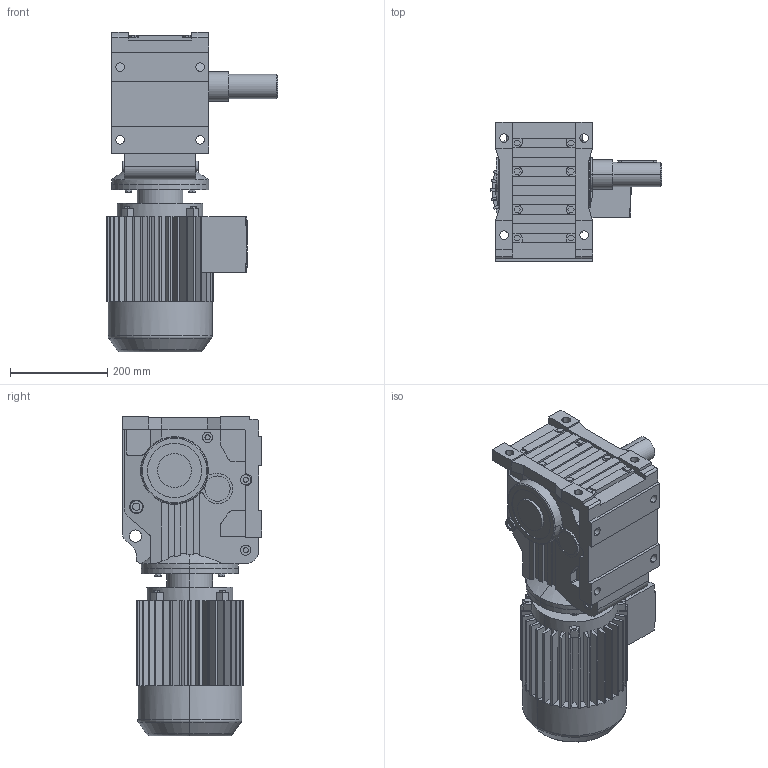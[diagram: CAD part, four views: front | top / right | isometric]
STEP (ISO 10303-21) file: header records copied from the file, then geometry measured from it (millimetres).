
FILE_DESCRIPTION(('Open CASCADE Model'),'2;1');
FILE_NAME('Open CASCADE Shape Model','2021-06-08T10:48:53',('Author'),( 'Open CASCADE'),'Open CASCADE STEP processor 6.3','Open CASCADE 6.3' ,'Unknown');
FILE_SCHEMA(('AUTOMOTIVE_DESIGN_CC2 { 1 2 10303 214 -1 1 5 4 }'));
Length unit declared in the file: millimetre
Products named in the file (4): 1_K77DV112M-A; K37‵157_77.step; 萇儂_200-DV112M-345-425-221-179.step; す瑩妗陑粣K_77.step
Assembly tree (3 placements, depth 2):
  1_K77DV112M-A
    K37‵157_77.step
    萇儂_200-DV112M-345-425-221-179.step
    す瑩妗陑粣K_77.step
Bounding box: 352.5 x 288 x 659 mm (x, y, z)
Volume: 24132354 mm3; surface area: 1164840 mm2
Topology: 3 solids, 3 shells, 841 faces, 2214 edges, 1436 vertices
Faces by surface type: plane 585, cylinder 231, cone 17, torus 8
Entity records: 57817 total; most frequent: CARTESIAN_POINT 15724, DIRECTION 7261, ORIENTED_EDGE 4424, PCURVE 4424, DEFINITIONAL_REPRESENTATION 4424, LINE 3951, VECTOR 3951, EDGE_CURVE 2212
